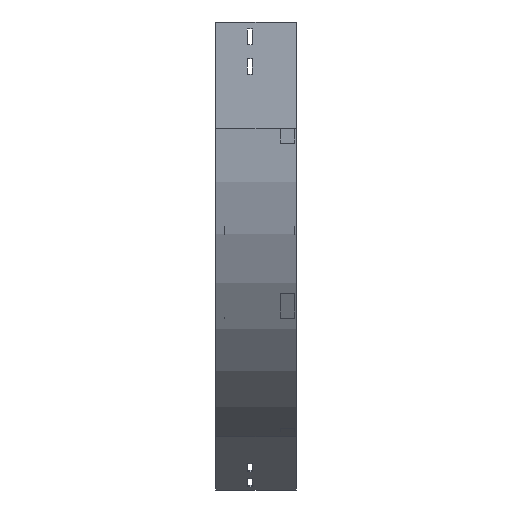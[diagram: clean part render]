
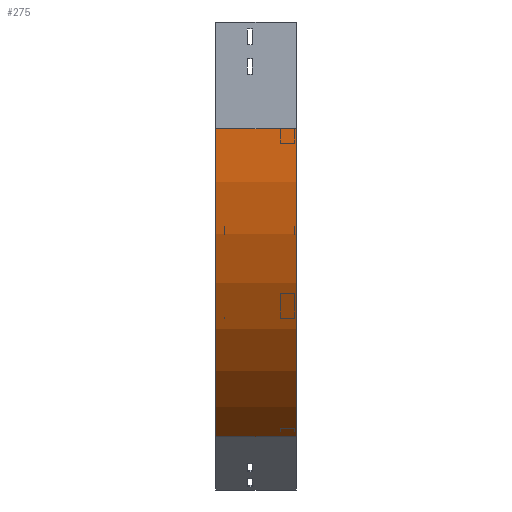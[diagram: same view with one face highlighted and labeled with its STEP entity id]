
A CAD part, left-side view. The second image highlights one B-rep face of the part: STEP entity #275.
In plain terms, the highlighted cylindrical face has radius 500 mm (diameter 1000 mm), a partial arc.
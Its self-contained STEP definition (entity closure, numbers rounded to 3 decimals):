
#176 = CYLINDRICAL_SURFACE ( 'NONE', #2823, 500. ) ;
#210 = ORIENTED_EDGE ( 'NONE', *, *, #2599, .T. ) ;
#275 = ADVANCED_FACE ( 'NONE', ( #1913 ), #176, .T. ) ;
#466 = DIRECTION ( 'NONE',  ( 0., 0., -1. ) ) ;
#692 = CIRCLE ( 'NONE', #1323, 500. ) ;
#915 = EDGE_CURVE ( 'NONE', #1799, #2906, #692, .T. ) ;
#1015 = CARTESIAN_POINT ( 'NONE',  ( 500., 0., -150. ) ) ;
#1021 = CARTESIAN_POINT ( 'NONE',  ( 0., 0., -150. ) ) ;
#1025 = EDGE_CURVE ( 'NONE', #1334, #1799, #3388, .T. ) ;
#1211 = DIRECTION ( 'NONE',  ( -1., 0., 0. ) ) ;
#1234 = LINE ( 'NONE', #3310, #2388 ) ;
#1323 = AXIS2_PLACEMENT_3D ( 'NONE', #1015, #3400, #3104 ) ;
#1334 = VERTEX_POINT ( 'NONE', #2360 ) ;
#1753 = AXIS2_PLACEMENT_3D ( 'NONE', #2431, #3279, #1211 ) ;
#1762 = ORIENTED_EDGE ( 'NONE', *, *, #1025, .F. ) ;
#1799 = VERTEX_POINT ( 'NONE', #3454 ) ;
#1913 = FACE_OUTER_BOUND ( 'NONE', #2110, .T. ) ;
#2099 = EDGE_CURVE ( 'NONE', #2795, #2906, #1234, .T. ) ;
#2110 = EDGE_LOOP ( 'NONE', ( #2471, #1762, #210, #3563 ) ) ;
#2263 = DIRECTION ( 'NONE',  ( 0., -1., 0. ) ) ;
#2360 = CARTESIAN_POINT ( 'NONE',  ( 0., 112.5, -150. ) ) ;
#2388 = VECTOR ( 'NONE', #2977, 1000. ) ;
#2431 = CARTESIAN_POINT ( 'NONE',  ( 500., 112.5, -150. ) ) ;
#2471 = ORIENTED_EDGE ( 'NONE', *, *, #915, .F. ) ;
#2599 = EDGE_CURVE ( 'NONE', #1334, #2795, #3417, .T. ) ;
#2738 = CARTESIAN_POINT ( 'NONE',  ( 250., 0., -583.013 ) ) ;
#2795 = VERTEX_POINT ( 'NONE', #3127 ) ;
#2823 = AXIS2_PLACEMENT_3D ( 'NONE', #3088, #2263, #466 ) ;
#2906 = VERTEX_POINT ( 'NONE', #2738 ) ;
#2977 = DIRECTION ( 'NONE',  ( 0., -1., 0. ) ) ;
#3088 = CARTESIAN_POINT ( 'NONE',  ( 500., 0., -150. ) ) ;
#3104 = DIRECTION ( 'NONE',  ( -1., 0., 0. ) ) ;
#3127 = CARTESIAN_POINT ( 'NONE',  ( 250., 112.5, -583.013 ) ) ;
#3131 = DIRECTION ( 'NONE',  ( 0., -1., 0. ) ) ;
#3279 = DIRECTION ( 'NONE',  ( 0., -1., 0. ) ) ;
#3310 = CARTESIAN_POINT ( 'NONE',  ( 250., 0., -583.013 ) ) ;
#3388 = LINE ( 'NONE', #1021, #3491 ) ;
#3400 = DIRECTION ( 'NONE',  ( 0., -1., 0. ) ) ;
#3417 = CIRCLE ( 'NONE', #1753, 500. ) ;
#3454 = CARTESIAN_POINT ( 'NONE',  ( 0., 0., -150. ) ) ;
#3491 = VECTOR ( 'NONE', #3131, 1000. ) ;
#3563 = ORIENTED_EDGE ( 'NONE', *, *, #2099, .T. ) ;
